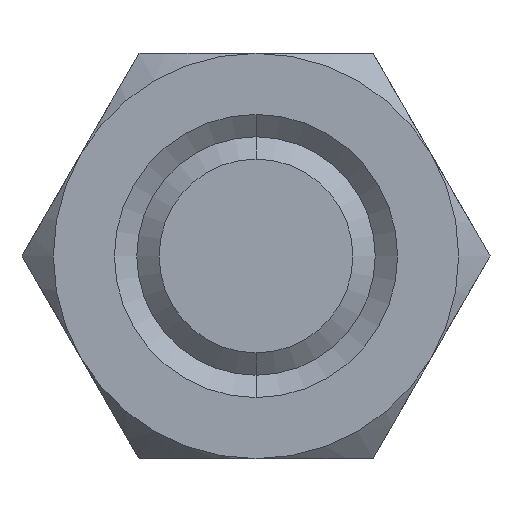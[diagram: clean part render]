
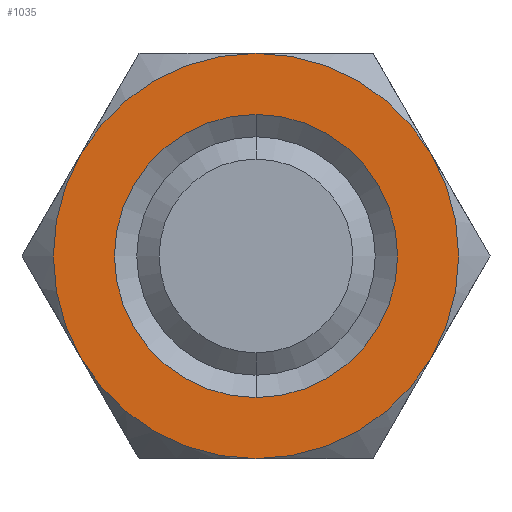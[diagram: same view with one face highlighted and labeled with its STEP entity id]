
A CAD part, front view. The second image highlights one B-rep face of the part: STEP entity #1035.
In plain terms, the highlighted planar face has unit normal (0, -1, 0).
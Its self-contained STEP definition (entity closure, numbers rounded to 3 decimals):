
#276 = EDGE_LOOP ( 'NONE', ( #1087, #1091, #1094, #1097, #1100, #1075 ) ) ;
#990 = VERTEX_POINT ( 'NONE', #2752 ) ;
#992 = VERTEX_POINT ( 'NONE', #2751 ) ;
#1035 = ADVANCED_FACE ( 'NONE', ( #2808, #2807 ), #2806, .F. ) ;
#1036 = EDGE_CURVE ( 'NONE', #990, #992, #2803, .T. ) ;
#1074 = EDGE_CURVE ( 'NONE', #1099, #1101, #2907, .T. ) ;
#1075 = ORIENTED_EDGE ( 'NONE', *, *, #1076, .F. ) ;
#1076 = EDGE_CURVE ( 'NONE', #1090, #1101, #2895, .T. ) ;
#1077 = EDGE_LOOP ( 'NONE', ( #1078, #1080 ) ) ;
#1078 = ORIENTED_EDGE ( 'NONE', *, *, #1079, .F. ) ;
#1079 = EDGE_CURVE ( 'NONE', #992, #990, #2891, .T. ) ;
#1080 = ORIENTED_EDGE ( 'NONE', *, *, #1036, .F. ) ;
#1087 = ORIENTED_EDGE ( 'NONE', *, *, #1088, .F. ) ;
#1088 = EDGE_CURVE ( 'NONE', #1089, #1090, #2936, .T. ) ;
#1089 = VERTEX_POINT ( 'NONE', #2931 ) ;
#1090 = VERTEX_POINT ( 'NONE', #2930 ) ;
#1091 = ORIENTED_EDGE ( 'NONE', *, *, #1092, .F. ) ;
#1092 = EDGE_CURVE ( 'NONE', #1093, #1089, #2929, .T. ) ;
#1093 = VERTEX_POINT ( 'NONE', #2924 ) ;
#1094 = ORIENTED_EDGE ( 'NONE', *, *, #1095, .F. ) ;
#1095 = EDGE_CURVE ( 'NONE', #1096, #1093, #2923, .T. ) ;
#1096 = VERTEX_POINT ( 'NONE', #2918 ) ;
#1097 = ORIENTED_EDGE ( 'NONE', *, *, #1098, .F. ) ;
#1098 = EDGE_CURVE ( 'NONE', #1099, #1096, #2917, .T. ) ;
#1099 = VERTEX_POINT ( 'NONE', #2912 ) ;
#1100 = ORIENTED_EDGE ( 'NONE', *, *, #1074, .T. ) ;
#1101 = VERTEX_POINT ( 'NONE', #2911 ) ;
#2751 = CARTESIAN_POINT ( 'NONE',  ( 0., 0., -5.937 ) ) ;
#2752 = CARTESIAN_POINT ( 'NONE',  ( 0., 0., 5.937 ) ) ;
#2797 = DIRECTION ( 'NONE',  ( 0., 0., -1. ) ) ;
#2798 = DIRECTION ( 'NONE',  ( 0., -1., 0. ) ) ;
#2799 = CARTESIAN_POINT ( 'NONE',  ( 0., 0., 0. ) ) ;
#2800 = AXIS2_PLACEMENT_3D ( 'NONE', #2799, #2798, #2797 ) ;
#2801 = DIRECTION ( 'NONE',  ( 0., 0., 1. ) ) ;
#2802 = DIRECTION ( 'NONE',  ( 0., 1., 0. ) ) ;
#2803 = CIRCLE ( 'NONE', #2800, 5.937 ) ;
#2804 = CARTESIAN_POINT ( 'NONE',  ( 9.815, 0., 0. ) ) ;
#2805 = AXIS2_PLACEMENT_3D ( 'NONE', #2804, #2802, #2801 ) ;
#2806 = PLANE ( 'NONE',  #2805 ) ;
#2807 = FACE_BOUND ( 'NONE', #1077, .T. ) ;
#2808 = FACE_OUTER_BOUND ( 'NONE', #276, .T. ) ;
#2887 = DIRECTION ( 'NONE',  ( 0., 0., -1. ) ) ;
#2888 = DIRECTION ( 'NONE',  ( 0., -1., 0. ) ) ;
#2889 = CARTESIAN_POINT ( 'NONE',  ( 0., 0., 0. ) ) ;
#2890 = AXIS2_PLACEMENT_3D ( 'NONE', #2889, #2888, #2887 ) ;
#2891 = CIRCLE ( 'NONE', #2890, 5.937 ) ;
#2892 = DIRECTION ( 'NONE',  ( 0., 0., 1. ) ) ;
#2893 = DIRECTION ( 'NONE',  ( 0., 1., 0. ) ) ;
#2894 = AXIS2_PLACEMENT_3D ( 'NONE', #2900, #2893, #2892 ) ;
#2895 = CIRCLE ( 'NONE', #2894, 8.5 ) ;
#2896 = DIRECTION ( 'NONE',  ( 0., 0., -1. ) ) ;
#2897 = DIRECTION ( 'NONE',  ( 0., -1., 0. ) ) ;
#2898 = CARTESIAN_POINT ( 'NONE',  ( 0., 0., 0. ) ) ;
#2899 = AXIS2_PLACEMENT_3D ( 'NONE', #2898, #2897, #2896 ) ;
#2900 = CARTESIAN_POINT ( 'NONE',  ( 0., 0., 0. ) ) ;
#2907 = CIRCLE ( 'NONE', #2899, 8.5 ) ;
#2911 = CARTESIAN_POINT ( 'NONE',  ( 7.361, 0., -4.25 ) ) ;
#2912 = CARTESIAN_POINT ( 'NONE',  ( 0., 0., -8.5 ) ) ;
#2913 = DIRECTION ( 'NONE',  ( 0., 0., 1. ) ) ;
#2914 = DIRECTION ( 'NONE',  ( 0., 1., 0. ) ) ;
#2915 = CARTESIAN_POINT ( 'NONE',  ( 0., 0., 0. ) ) ;
#2916 = AXIS2_PLACEMENT_3D ( 'NONE', #2915, #2914, #2913 ) ;
#2917 = CIRCLE ( 'NONE', #2916, 8.5 ) ;
#2918 = CARTESIAN_POINT ( 'NONE',  ( -7.361, 0., -4.25 ) ) ;
#2919 = DIRECTION ( 'NONE',  ( 0., 0., 1. ) ) ;
#2920 = DIRECTION ( 'NONE',  ( 0., 1., 0. ) ) ;
#2921 = CARTESIAN_POINT ( 'NONE',  ( 0., 0., 0. ) ) ;
#2922 = AXIS2_PLACEMENT_3D ( 'NONE', #2921, #2920, #2919 ) ;
#2923 = CIRCLE ( 'NONE', #2922, 8.5 ) ;
#2924 = CARTESIAN_POINT ( 'NONE',  ( -7.361, 0., 4.25 ) ) ;
#2925 = DIRECTION ( 'NONE',  ( 0., 0., 1. ) ) ;
#2926 = DIRECTION ( 'NONE',  ( 0., 1., 0. ) ) ;
#2927 = CARTESIAN_POINT ( 'NONE',  ( 0., 0., 0. ) ) ;
#2928 = AXIS2_PLACEMENT_3D ( 'NONE', #2927, #2926, #2925 ) ;
#2929 = CIRCLE ( 'NONE', #2928, 8.5 ) ;
#2930 = CARTESIAN_POINT ( 'NONE',  ( 7.361, 0., 4.25 ) ) ;
#2931 = CARTESIAN_POINT ( 'NONE',  ( 0., 0., 8.5 ) ) ;
#2932 = DIRECTION ( 'NONE',  ( 0., 0., 1. ) ) ;
#2933 = DIRECTION ( 'NONE',  ( 0., 1., 0. ) ) ;
#2934 = CARTESIAN_POINT ( 'NONE',  ( 0., 0., 0. ) ) ;
#2935 = AXIS2_PLACEMENT_3D ( 'NONE', #2934, #2933, #2932 ) ;
#2936 = CIRCLE ( 'NONE', #2935, 8.5 ) ;
